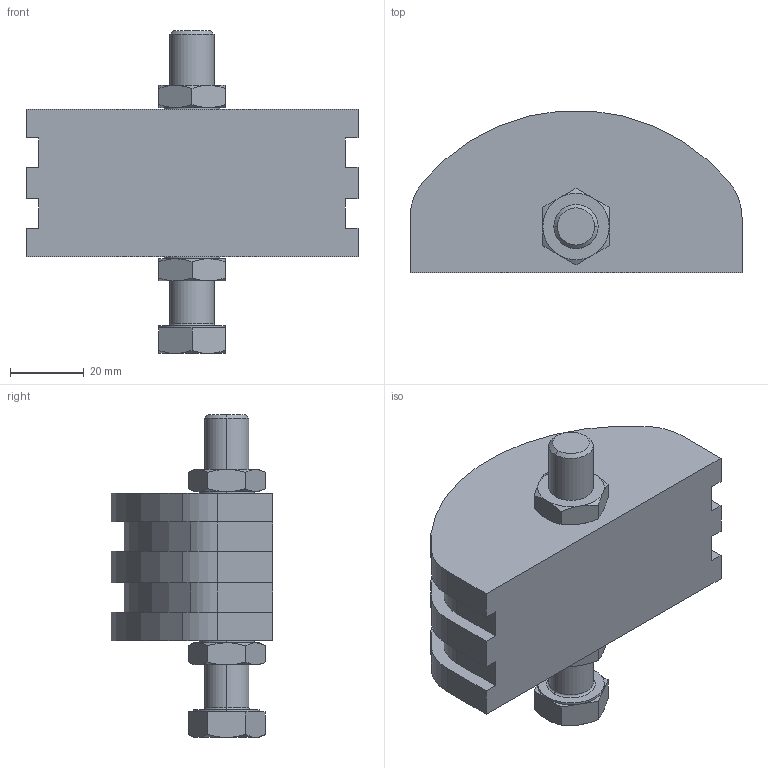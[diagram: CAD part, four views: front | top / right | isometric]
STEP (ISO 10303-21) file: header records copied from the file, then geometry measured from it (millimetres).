
FILE_DESCRIPTION (( 'STEP AP203' ), '1' );
FILE_NAME ('GE-P 5-8T cod. 94051503.STEP', '2017-07-31T08:28:47', ( '' ), ( '' ), 'SwSTEP 2.0', 'SolidWorks 2016', '' );
FILE_SCHEMA (( 'CONFIG_CONTROL_DESIGN' ));
Length unit declared in the file: millimetre
Products named in the file (5): GE-P 5-8T cod. 94051503; ISO - 4035 - M12 - N_ISO - 4035 - M12 - N; GE-P ISO 10B-3; DS 12-15-40; ISO 4017 - M12 x 80-C_ISO 4017 - M12 x 80-C
Assembly tree (5 placements, depth 2):
  GE-P 5-8T cod. 94051503
    GE-P ISO 10B-3
    DS 12-15-40
    ISO 4017 - M12 x 80-C_ISO 4017 - M12 x 80-C
    ISO - 4035 - M12 - N_ISO - 4035 - M12 - N  x2
Bounding box: 90 x 43.83 x 87.5 mm (x, y, z)
Volume: 133460.9 mm3; surface area: 28671.8 mm2
Topology: 5 solids, 5 shells, 125 faces, 288 edges, 174 vertices
Faces by surface type: plane 50, cone 40, cylinder 33, torus 2
Entity records: 3465 total; most frequent: CARTESIAN_POINT 681, DIRECTION 490, ORIENTED_EDGE 456, EDGE_CURVE 228, AXIS2_PLACEMENT_3D 193, VERTEX_POINT 140, LINE 104, VECTOR 104
